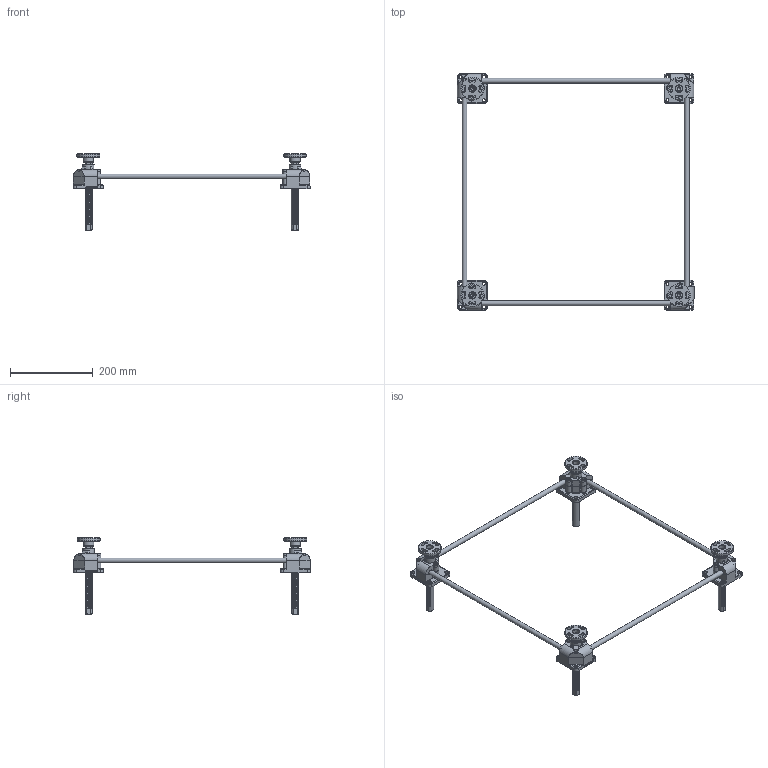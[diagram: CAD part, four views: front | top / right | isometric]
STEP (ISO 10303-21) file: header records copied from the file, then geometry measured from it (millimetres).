
FILE_DESCRIPTION(('STEP AP203'),'1');
FILE_NAME('SP300F-500x500-100ST.stp','2016-08-05T04:50:51',(' '),(' '),'Spatial InterOp 3D',' ',' ');
FILE_SCHEMA(('CONFIG_CONTROL_DESIGN'));
Length unit declared in the file: millimetre
Products named in the file (52): SP300F-500x500-100ST; Rack Gear(SP-300); Flange.1; Flange.2; Flange.3; Flange.4; Body.1-Part; Bolt; Gear Box.1(Upper); Gear Box.1(Lower); RJ05-4SCJ-610X600-100ST_CAP; LABEL-B.1; ___; __; 파트18; Body.2-Part; Gear Box.2(Upper); Gear Box.2(Lower); Body.3-Part; Gear Box.3(Upper); Gear Box.3(Lower); Body.4-Part; Gear Box.4(Upper); Gear Box.4(Lower); 파트51
Assembly tree (56 placements, depth 6):
  SP300F-500x500-100ST
    Rack Gear(SP-300)  x4
    Flange.1
    Flange.2
    Flange.3
    Flange.4
    Body.1-Part
      Bolt
      Bolt
      Bolt
      Gear Box.1(Upper)
      Gear Box.1(Lower)
      __
        ___
          RJ05-4SCJ-610X600-100ST_CAP
            LABEL-B.1
        파트18
    Body.2-Part
      Bolt
      Bolt
      Bolt
      Gear Box.2(Upper)
      Gear Box.2(Lower)
      __
        ___
          RJ05-4SCJ-610X600-100ST_CAP
            LABEL-B.1
        파트18
    Body.3-Part
      Bolt
      Bolt
      Bolt
      Gear Box.3(Upper)
      Gear Box.3(Lower)
      __
        ___
          RJ05-4SCJ-610X600-100ST_CAP
            LABEL-B.1
        파트18
    Body.4-Part
      Bolt
      Bolt
      Bolt
      Gear Box.4(Upper)
      Gear Box.4(Lower)
      __
        ___
          RJ05-4SCJ-610X600-100ST_CAP
            LABEL-B.1
        파트18
    (unnamed)  x2
    파트51  x2
Bounding box: 573.74 x 572.24 x 185 mm (x, y, z)
Volume: 769363.8 mm3; surface area: 345660.9 mm2
Topology: 60 solids, 60 shells, 9828 faces, 27896 edges, 18108 vertices
Faces by surface type: plane 8464, cylinder 972, bspline 168, torus 104, cone 92, sphere 28
Full cylindrical faces by diameter (mm): 6 x24, 7 x28, 8 x4, 9 x4, 10 x24, 12 x4, 16 x4, 18 x4, 18.5 x8, 20.3 x16, 21.3 x8, 25 x4, 28 x4, 55 x4
Entity records: 288282 total; most frequent: CARTESIAN_POINT 65180, ORIENTED_EDGE 47832, DIRECTION 42016, EDGE_CURVE 23916, LINE 21554, VECTOR 21554, VERTEX_POINT 15807, AXIS2_PLACEMENT_3D 10231
